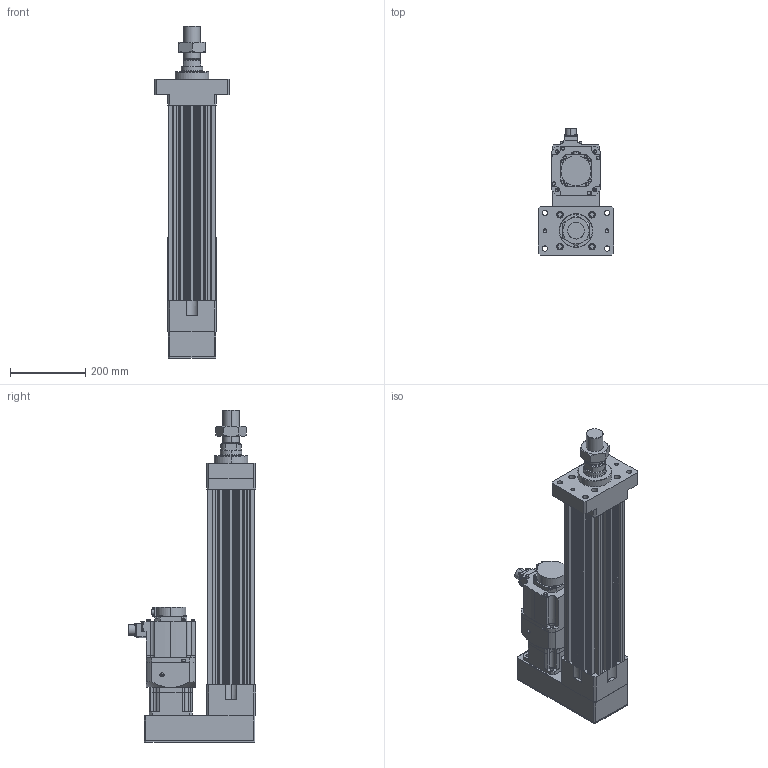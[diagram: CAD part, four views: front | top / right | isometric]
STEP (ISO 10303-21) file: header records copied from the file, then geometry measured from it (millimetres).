
FILE_DESCRIPTION (( 'STEP AP203' ), '1' );
FILE_NAME ('HES130NS(FS)(HS)-P300-W015G00-M-FMA.STEP', '2023-01-29T04:39:04', ( 'tms' ), ( '' ), 'SwSTEP 2.0', 'SolidWorks 2013', '' );
FILE_SCHEMA (( 'CONFIG_CONTROL_DESIGN' ));
Length unit declared in the file: millimetre
Products named in the file (8): M45X1.5P; HES130 ROD M ST300; P0401400706; AB115-003[HG-SR152]; AB1151; HES130NS(FS)(HS)-P300-W015G00-M-FMA; HG-SR152; HES130-P300-G120-FMA
Assembly tree (7 placements, depth 3):
  HES130NS(FS)(HS)-P300-W015G00-M-FMA
    HES130-P300-G120-FMA
    HES130 ROD M ST300
    M45X1.5P
    AB115-003[HG-SR152]
      AB1151
      P0401400706
    HG-SR152
Bounding box: 200 x 337.49 x 882 mm (x, y, z)
Volume: 10837428.1 mm3; surface area: 1246931.5 mm2
Topology: 4 solids, 11 shells, 1082 faces, 2768 edges, 1799 vertices
Faces by surface type: cylinder 513, plane 489, cone 68, bspline 8, torus 4
Entity records: 34626 total; most frequent: CARTESIAN_POINT 6632, DIRECTION 5993, ORIENTED_EDGE 5484, EDGE_CURVE 2752, AXIS2_PLACEMENT_3D 2228, VERTEX_POINT 1799, LINE 1537, VECTOR 1537
